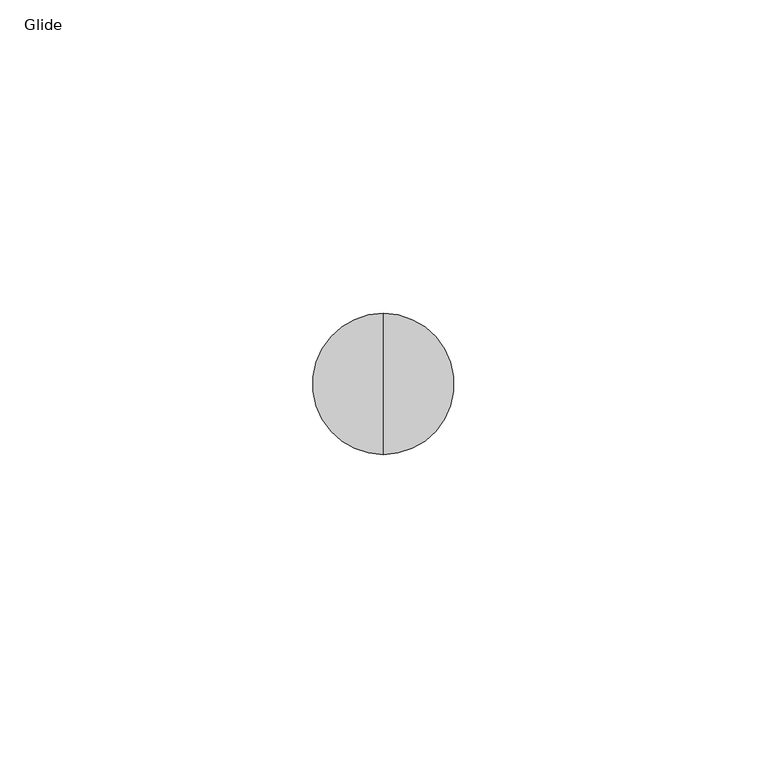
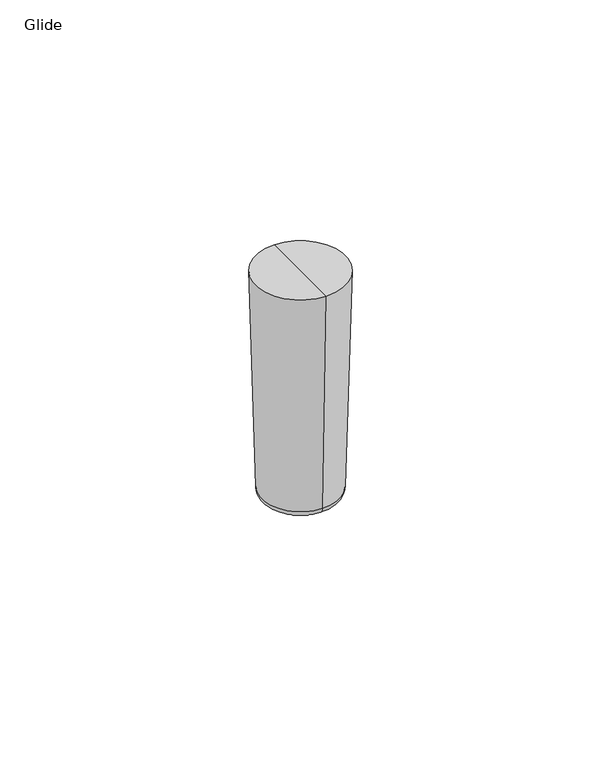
"""IFC4 building model written with IfcOpenShell, lengths in millimetres: furniture geometry, SmithSystem_AM_Accesory_Numbers_Casters : Glide."""

from ifc_helpers import new_model, si_unit, point, frame, origin, place, context, project, spatial, polyline, circle_curve, ellipse_curve, trimmed, source, transform, mapped, element, save
from ifc_brep_helpers import plane_surface, revolved_surface, advanced_brep


def glide_271f9d47(model_context):
    return source(origin(), model_context, "Body", "AdvancedBrep", [
        advanced_brep(
        [(-0.418455, -12.9693096, 60.300003), (-0.418455, -24.2246182, 60.300003), (-0.418455, -1.7140009, 60.300003), (-0.418455, -10.1808185, 0.0), (-0.418455, -15.7578007, 0.0), (-0.418455, -12.9693096, 0.0), (-0.418455, -6.0685423, 0.7384974), (-0.418455, -19.8700768, 0.7384974), (-0.418455, -4.4329901, 1.3455105), (-0.418455, -21.505629, 1.3455105), (-0.418455, -3.2467449, 3.0033379), (-0.418455, -22.6918743, 3.0033379)],
        [
            (0, 1),
            (1, 2, circle_curve(frame((-0.418455, -12.9693096, 60.300003), z_axis=(0.0, 0.0, 1.0), x_axis=(0.0, -1.0, 0.0)), 11.2553086)),
            (2, 0),
            (2, 1, circle_curve(frame((-0.418455, -12.9693096, 60.300003), z_axis=(0.0, 0.0, 1.0), x_axis=(0.0, -1.0, 0.0)), 11.2553086)),
            (3, 4, circle_curve(frame((-0.418455, -12.9693096, 0.0), z_axis=(0.0, 0.0, -1.0), x_axis=(0.0, -1.0, 0.0)), 2.7884911)),
            (4, 5),
            (5, 3),
            (4, 3, circle_curve(frame((-0.418455, -12.9693096, 0.0), z_axis=(0.0, 0.0, -1.0), x_axis=(0.0, -1.0, 0.0)), 2.7884911)),
            (6, 7, circle_curve(frame((-0.418455, -12.9693096, 0.7384974), z_axis=(0.0, 0.0, -1.0), x_axis=(0.0, -1.0, 0.0)), 6.9007672)),
            (7, 4, circle_curve(frame((-0.418455, -15.7578007, 11.8187236), z_axis=(1.0, 0.0, 0.0), x_axis=(0.0, -1.0, 0.0)), 11.8187236)),
            (3, 6, circle_curve(frame((-0.418455, -10.1808185, 11.8187236), z_axis=(1.0, 0.0, 0.0), x_axis=(0.0, 1.0, 0.0)), 11.8187236)),
            (7, 6, circle_curve(frame((-0.418455, -12.9693096, 0.7384974), z_axis=(0.0, 0.0, -1.0), x_axis=(0.0, -1.0, 0.0)), 6.9007672)),
            (8, 9, circle_curve(frame((-0.418455, -12.9693096, 1.3455105), z_axis=(0.0, 0.0, -1.0), x_axis=(0.0, -1.0, 0.0)), 8.5363195)),
            (9, 7),
            (6, 8),
            (9, 8, circle_curve(frame((-0.418455, -12.9693096, 1.3455105), z_axis=(0.0, 0.0, -1.0), x_axis=(0.0, -1.0, 0.0)), 8.5363195)),
            (10, 11, circle_curve(frame((-0.418455, -12.9693096, 3.0033379), z_axis=(0.0, 0.0, -1.0), x_axis=(0.0, -1.0, 0.0)), 9.7225647)),
            (11, 9, circle_curve(frame((-0.418455, -20.8722834, 3.0520138), z_axis=(1.0, 0.0, 0.0), x_axis=(0.0, -1.0, 0.0)), 1.8202418)),
            (8, 10, circle_curve(frame((-0.418455, -5.0663358, 3.0520138), z_axis=(1.0, 0.0, 0.0), x_axis=(0.0, 1.0, 0.0)), 1.8202418)),
            (11, 10, circle_curve(frame((-0.418455, -12.9693096, 3.0033379), z_axis=(0.0, 0.0, -1.0), x_axis=(0.0, -1.0, 0.0)), 9.7225647)),
            (1, 11),
            (10, 2),
        ],
        [
            plane_surface(frame((-0.418455, -12.9693096, 60.300003), z_axis=(0.0, 0.0, 1.0), x_axis=(0.0, -1.0, 0.0))),
            plane_surface(frame((-0.418455, -12.9693096, 0.0), z_axis=(0.0, 0.0, -1.0), x_axis=(0.0, -1.0, 0.0))),
            revolved_surface(trimmed(ellipse_curve(frame((-0.418455, -15.7578007, 11.8187236), z_axis=(-1.0, 0.0, 0.0), x_axis=(0.0, -1.0, 0.0)), 11.8187236, 11.8187236), [point((-0.418455, -15.7578007, 0.0))], [point((-0.418455, -19.8700768, 0.7384974))], True, "CARTESIAN"), (-0.418455, -12.9693096, 60.300003), (0.0, 0.0, 1.0)),
            revolved_surface(polyline([(-0.418455, -19.8700768, 0.7384974), (-0.418455, -21.505629, 1.3455105)]), (-0.418455, -12.9693096, 60.300003), (0.0, 0.0, 1.0)),
            revolved_surface(trimmed(ellipse_curve(frame((-0.418455, -20.8722834, 3.0520138), z_axis=(-1.0, 0.0, 0.0), x_axis=(0.0, -1.0, 0.0)), 1.8202418, 1.8202418), [point((-0.418455, -21.505629, 1.3455105))], [point((-0.418455, -22.6918743, 3.0033379))], True, "CARTESIAN"), (-0.418455, -12.9693096, 60.300003), (0.0, 0.0, 1.0)),
            revolved_surface(polyline([(-0.418455, -22.6918743, 3.0033379), (-0.418455, -24.2246182, 60.300003)]), (-0.418455, -12.9693096, 60.300003), (0.0, 0.0, 1.0)),
        ],
        [
            (0, [[1, 2, 3]]),
            (0, [[-3, 4, -1]]),
            (1, [[5, 6, 7]]),
            (1, [[8, -7, -6]]),
            (2, [[9, 10, -5, 11]]),
            (2, [[12, -11, -8, -10]]),
            (3, [[13, 14, -9, 15]]),
            (3, [[16, -15, -12, -14]]),
            (4, [[17, 18, -13, 19]]),
            (4, [[20, -19, -16, -18]]),
            (5, [[-2, 21, -17, 22]]),
            (5, [[-4, -22, -20, -21]]),
        ],
    ),
    ])


if __name__ == "__main__":
    model = new_model("IFC4")
    model_context = context("Model", 3, world=origin())
    ifc_project = project(units=[si_unit("LENGTHUNIT", "METRE", prefix="MILLI")], contexts=[model_context])
    site = spatial("IfcSite", under=ifc_project)
    building = spatial("IfcBuilding", under=site)
    placement = place(None, origin())
    glide_shape = glide_271f9d47(model_context)
    element("IfcFurniture", 1, ObjectType="SmithSystem_AM_Accesory_Numbers_Casters : Glide", at=placement, inside=building, context=model_context, shape_type="MappedRepresentation", body=[
        mapped(glide_shape, transform((0.0, 0.0, 0.0), x_axis=(1.0, 0.0, 0.0), y_axis=(0.0, 1.0, 0.0), z_axis=(0.0, 0.0, 1.0))),
    ])
    save(model, "model.ifc")
